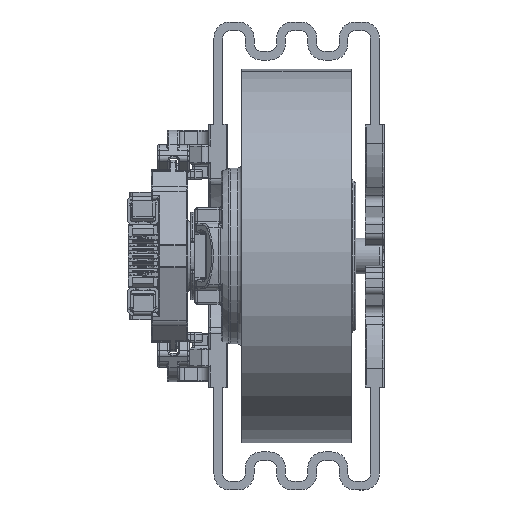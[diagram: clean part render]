
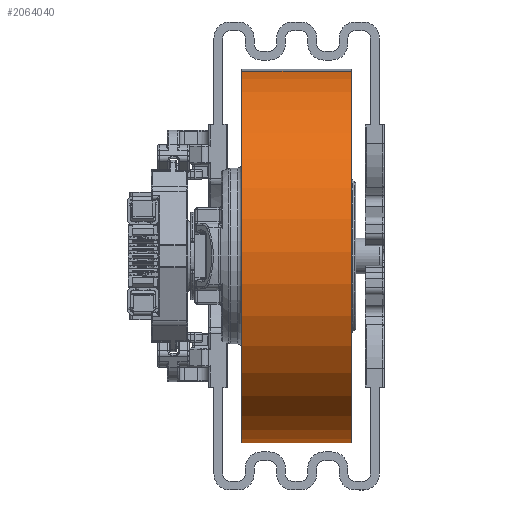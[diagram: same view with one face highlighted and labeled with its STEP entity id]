
A CAD part, front view. The second image highlights one B-rep face of the part: STEP entity #2064040.
In plain terms, the highlighted cylindrical face has radius 12.78 mm (diameter 25.56 mm), a partial arc.
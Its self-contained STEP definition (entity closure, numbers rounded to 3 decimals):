
#2034880=CARTESIAN_POINT('',(-22.122,-29.018,
48.473));
#2034890=DIRECTION('',(1.,0.,0.));
#2034900=VECTOR('',#2034890,1.);
#2034910=LINE('',#2034880,#2034900);
#2034920=CARTESIAN_POINT('',(-28.871,-29.018,
48.473));
#2034930=VERTEX_POINT('',#2034920);
#2034940=CARTESIAN_POINT('',(-21.371,-29.018,
48.473));
#2034950=VERTEX_POINT('',#2034940);
#2034960=EDGE_CURVE('',#2034930,#2034950,#2034910,.T.);
#2034980=CARTESIAN_POINT('',(-28.871,-16.385,
46.539));
#2034990=DIRECTION('',(-1.,0.,0.))
;
#2035000=DIRECTION('',(0.,0.988,
-0.151));
#2035010=AXIS2_PLACEMENT_3D('',#2034980,#2034990,#2035000);
#2035020=CIRCLE('',#2035010,12.78);
#2035030=CARTESIAN_POINT('',(-28.871,-3.752,
44.606));
#2035040=VERTEX_POINT('',#2035030);
#2035070=CARTESIAN_POINT('',(-22.122,-3.752,
44.606));
#2035080=DIRECTION('',(1.,0.,0.));
#2035090=VECTOR('',#2035080,1.);
#2035100=LINE('',#2035070,#2035090);
#2035110=CARTESIAN_POINT('',(-21.371,-3.752,
44.606));
#2035120=VERTEX_POINT('',#2035110);
#2035130=EDGE_CURVE('',#2035040,#2035120,#2035100,.T.);
#2035150=CARTESIAN_POINT('',(-21.371,-16.385,
46.539));
#2035160=DIRECTION('',(1.,0.,0.));
#2035170=DIRECTION('',(0.,-0.988,
0.151));
#2035180=AXIS2_PLACEMENT_3D('',#2035150,#2035160,#2035170);
#2035190=CIRCLE('',#2035180,12.78);
#2035500=CARTESIAN_POINT('',(-28.871,-3.752,
44.606));
#2035510=VERTEX_POINT('',#2035500);
#2035520=EDGE_CURVE('',#2035510,#2034930,#2035020,.T.);
#2035540=EDGE_CURVE('',#2035040,#2035510,#2035020,.T.);
#2038330=EDGE_CURVE('',#2034950,#2035120,#2035190,.T.);
#2063920=CARTESIAN_POINT('',(-22.122,-16.385,
46.539));
#2063930=DIRECTION('',(1.,0.,0.));
#2063940=DIRECTION('',(0.,-0.988,
0.151));
#2063950=AXIS2_PLACEMENT_3D('',#2063920,#2063930,#2063940);
#2063960=CYLINDRICAL_SURFACE('',#2063950,12.78);
#2063970=ORIENTED_EDGE('',*,*,#2035520,.F.);
#2063980=ORIENTED_EDGE('',*,*,#2034960,.F.);
#2063990=ORIENTED_EDGE('',*,*,#2038330,.F.);
#2064000=ORIENTED_EDGE('',*,*,#2035130,.T.);
#2064010=ORIENTED_EDGE('',*,*,#2035540,.F.);
#2064020=EDGE_LOOP('',(#2064010,#2064000,#2063990,#2063980,#2063970));
#2064030=FACE_OUTER_BOUND('',#2064020,.T.);
#2064040=ADVANCED_FACE('',(#2064030),#2063960,.T.);
